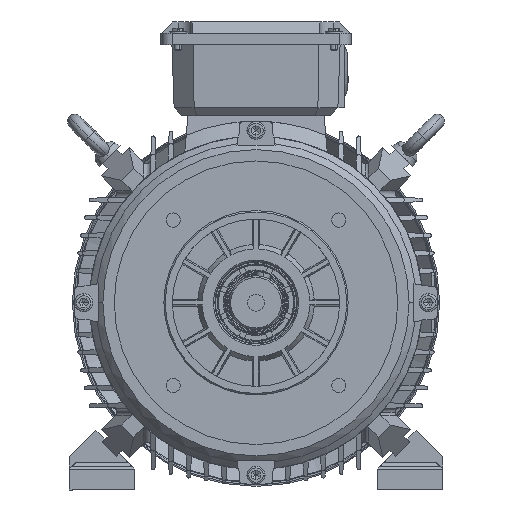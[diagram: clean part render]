
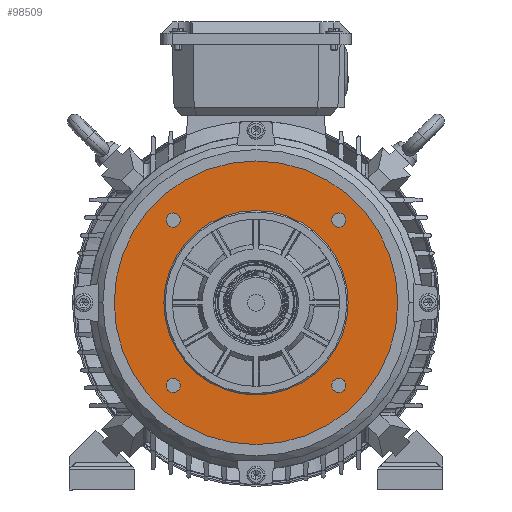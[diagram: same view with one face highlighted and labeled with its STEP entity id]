
A CAD part, left-side view. The second image highlights one B-rep face of the part: STEP entity #98509.
In plain terms, the highlighted planar face has unit normal (-1, 0, 0).
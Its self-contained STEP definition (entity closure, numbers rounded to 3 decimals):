
#95651 = EDGE_CURVE ( 'NONE', #95734, #95652, #122150, .T. ) ;
#95652 = VERTEX_POINT ( 'NONE', #122146 ) ;
#95666 = VERTEX_POINT ( 'NONE', #122119 ) ;
#95668 = EDGE_CURVE ( 'NONE', #95666, #95669, #122182, .T. ) ;
#95669 = VERTEX_POINT ( 'NONE', #122177 ) ;
#95682 = VERTEX_POINT ( 'NONE', #122211 ) ;
#95684 = EDGE_CURVE ( 'NONE', #95682, #95685, #122210, .T. ) ;
#95685 = VERTEX_POINT ( 'NONE', #122205 ) ;
#95717 = VERTEX_POINT ( 'NONE', #122276 ) ;
#95719 = EDGE_CURVE ( 'NONE', #95717, #95720, #122275, .T. ) ;
#95720 = VERTEX_POINT ( 'NONE', #122270 ) ;
#95734 = VERTEX_POINT ( 'NONE', #122298 ) ;
#96098 = VERTEX_POINT ( 'NONE', #123039 ) ;
#96100 = EDGE_CURVE ( 'NONE', #96101, #96098, #123038, .T. ) ;
#96101 = VERTEX_POINT ( 'NONE', #123033 ) ;
#96107 = EDGE_CURVE ( 'NONE', #96108, #96109, #123089, .T. ) ;
#96108 = VERTEX_POINT ( 'NONE', #123080 ) ;
#96109 = VERTEX_POINT ( 'NONE', #123079 ) ;
#98488 = EDGE_CURVE ( 'NONE', #95720, #95717, #128428, .T. ) ;
#98490 = ORIENTED_EDGE ( 'NONE', *, *, #95719, .F. ) ;
#98491 = EDGE_LOOP ( 'NONE', ( #98492, #98494 ) ) ;
#98492 = ORIENTED_EDGE ( 'NONE', *, *, #96107, .F. ) ;
#98494 = ORIENTED_EDGE ( 'NONE', *, *, #98500, .F. ) ;
#98500 = EDGE_CURVE ( 'NONE', #96109, #96108, #128414, .T. ) ;
#98509 = ADVANCED_FACE ( 'NONE', ( #128459, #128458, #128457, #128456, #128455, #128454 ), #128453, .F. ) ;
#98510 = EDGE_LOOP ( 'NONE', ( #98512, #98517 ) ) ;
#98512 = ORIENTED_EDGE ( 'NONE', *, *, #98514, .F. ) ;
#98514 = EDGE_CURVE ( 'NONE', #95685, #95682, #128447, .T. ) ;
#98517 = ORIENTED_EDGE ( 'NONE', *, *, #95684, .F. ) ;
#98518 = EDGE_LOOP ( 'NONE', ( #98551, #98555 ) ) ;
#98529 = ORIENTED_EDGE ( 'NONE', *, *, #98531, .T. ) ;
#98531 = EDGE_CURVE ( 'NONE', #96098, #96101, #128536, .T. ) ;
#98551 = ORIENTED_EDGE ( 'NONE', *, *, #98553, .F. ) ;
#98553 = EDGE_CURVE ( 'NONE', #95669, #95666, #128558, .T. ) ;
#98555 = ORIENTED_EDGE ( 'NONE', *, *, #95668, .F. ) ;
#98557 = EDGE_LOOP ( 'NONE', ( #98559, #98563 ) ) ;
#98559 = ORIENTED_EDGE ( 'NONE', *, *, #98560, .F. ) ;
#98560 = EDGE_CURVE ( 'NONE', #95652, #95734, #128554, .T. ) ;
#98563 = ORIENTED_EDGE ( 'NONE', *, *, #95651, .F. ) ;
#98564 = EDGE_LOOP ( 'NONE', ( #98566, #98490 ) ) ;
#98566 = ORIENTED_EDGE ( 'NONE', *, *, #98488, .F. ) ;
#98603 = EDGE_LOOP ( 'NONE', ( #98606, #98529 ) ) ;
#98606 = ORIENTED_EDGE ( 'NONE', *, *, #96100, .T. ) ;
#122093 = CARTESIAN_POINT ( 'NONE',  ( 4., 58.336, 58.336 ) ) ;
#122119 = CARTESIAN_POINT ( 'NONE',  ( 4., -58.336, 53.336 ) ) ;
#122146 = CARTESIAN_POINT ( 'NONE',  ( 4., 58.336, 63.336 ) ) ;
#122147 = DIRECTION ( 'NONE',  ( 0., 0., 1. ) ) ;
#122148 = DIRECTION ( 'NONE',  ( -1., 0., 0. ) ) ;
#122149 = AXIS2_PLACEMENT_3D ( 'NONE', #122093, #122148, #122147 ) ;
#122150 = CIRCLE ( 'NONE', #122149, 5. ) ;
#122177 = CARTESIAN_POINT ( 'NONE',  ( 4., -58.336, 63.336 ) ) ;
#122178 = DIRECTION ( 'NONE',  ( 0., 0., 1. ) ) ;
#122179 = DIRECTION ( 'NONE',  ( -1., 0., 0. ) ) ;
#122180 = CARTESIAN_POINT ( 'NONE',  ( 4., -58.336, 58.336 ) ) ;
#122181 = AXIS2_PLACEMENT_3D ( 'NONE', #122180, #122179, #122178 ) ;
#122182 = CIRCLE ( 'NONE', #122181, 5. ) ;
#122205 = CARTESIAN_POINT ( 'NONE',  ( 4., -58.336, -53.336 ) ) ;
#122206 = DIRECTION ( 'NONE',  ( 0., 0., 1. ) ) ;
#122207 = DIRECTION ( 'NONE',  ( -1., 0., 0. ) ) ;
#122208 = CARTESIAN_POINT ( 'NONE',  ( 4., -58.336, -58.336 ) ) ;
#122209 = AXIS2_PLACEMENT_3D ( 'NONE', #122208, #122207, #122206 ) ;
#122210 = CIRCLE ( 'NONE', #122209, 5. ) ;
#122211 = CARTESIAN_POINT ( 'NONE',  ( 4., -58.336, -63.336 ) ) ;
#122270 = CARTESIAN_POINT ( 'NONE',  ( 4., 58.336, -53.336 ) ) ;
#122271 = DIRECTION ( 'NONE',  ( 0., 0., 1. ) ) ;
#122272 = DIRECTION ( 'NONE',  ( -1., 0., 0. ) ) ;
#122273 = CARTESIAN_POINT ( 'NONE',  ( 4., 58.336, -58.336 ) ) ;
#122274 = AXIS2_PLACEMENT_3D ( 'NONE', #122273, #122272, #122271 ) ;
#122275 = CIRCLE ( 'NONE', #122274, 5. ) ;
#122276 = CARTESIAN_POINT ( 'NONE',  ( 4., 58.336, -63.336 ) ) ;
#122298 = CARTESIAN_POINT ( 'NONE',  ( 4., 58.336, 53.336 ) ) ;
#123033 = CARTESIAN_POINT ( 'NONE',  ( 4., 0., 100. ) ) ;
#123034 = DIRECTION ( 'NONE',  ( 0., 0., 1. ) ) ;
#123035 = DIRECTION ( 'NONE',  ( -1., 0., 0. ) ) ;
#123036 = CARTESIAN_POINT ( 'NONE',  ( 4., 0., 0. ) ) ;
#123037 = AXIS2_PLACEMENT_3D ( 'NONE', #123036, #123035, #123034 ) ;
#123038 = CIRCLE ( 'NONE', #123037, 100. ) ;
#123039 = CARTESIAN_POINT ( 'NONE',  ( 4., 0., -100. ) ) ;
#123079 = CARTESIAN_POINT ( 'NONE',  ( 4., 0., -65. ) ) ;
#123080 = CARTESIAN_POINT ( 'NONE',  ( 4., 0., 65. ) ) ;
#123081 = DIRECTION ( 'NONE',  ( 0., 0., 1. ) ) ;
#123082 = DIRECTION ( 'NONE',  ( -1., 0., 0. ) ) ;
#123083 = CARTESIAN_POINT ( 'NONE',  ( 4., 0., 0. ) ) ;
#123084 = AXIS2_PLACEMENT_3D ( 'NONE', #123083, #123082, #123081 ) ;
#123089 = CIRCLE ( 'NONE', #123084, 65. ) ;
#128414 = CIRCLE ( 'NONE', #128478, 65. ) ;
#128420 = DIRECTION ( 'NONE',  ( 0., 0., 1. ) ) ;
#128421 = DIRECTION ( 'NONE',  ( -1., 0., 0. ) ) ;
#128422 = CARTESIAN_POINT ( 'NONE',  ( 4., 58.336, -58.336 ) ) ;
#128423 = AXIS2_PLACEMENT_3D ( 'NONE', #128422, #128421, #128420 ) ;
#128428 = CIRCLE ( 'NONE', #128423, 5. ) ;
#128444 = DIRECTION ( 'NONE',  ( 0., 0., 1. ) ) ;
#128445 = DIRECTION ( 'NONE',  ( -1., 0., 0. ) ) ;
#128446 = AXIS2_PLACEMENT_3D ( 'NONE', #128451, #128445, #128444 ) ;
#128447 = CIRCLE ( 'NONE', #128446, 5. ) ;
#128448 = DIRECTION ( 'NONE',  ( 0., 0., -1. ) ) ;
#128449 = DIRECTION ( 'NONE',  ( 1., 0., 0. ) ) ;
#128450 = AXIS2_PLACEMENT_3D ( 'NONE', #128452, #128449, #128448 ) ;
#128451 = CARTESIAN_POINT ( 'NONE',  ( 4., -58.336, -58.336 ) ) ;
#128452 = CARTESIAN_POINT ( 'NONE',  ( 4., 100., 0. ) ) ;
#128453 = PLANE ( 'NONE',  #128450 ) ;
#128454 = FACE_OUTER_BOUND ( 'NONE', #98603, .T. ) ;
#128455 = FACE_BOUND ( 'NONE', #98491, .T. ) ;
#128456 = FACE_BOUND ( 'NONE', #98564, .T. ) ;
#128457 = FACE_BOUND ( 'NONE', #98557, .T. ) ;
#128458 = FACE_BOUND ( 'NONE', #98518, .T. ) ;
#128459 = FACE_BOUND ( 'NONE', #98510, .T. ) ;
#128475 = DIRECTION ( 'NONE',  ( 0., 0., 1. ) ) ;
#128476 = DIRECTION ( 'NONE',  ( -1., 0., 0. ) ) ;
#128477 = CARTESIAN_POINT ( 'NONE',  ( 4., 0., 0. ) ) ;
#128478 = AXIS2_PLACEMENT_3D ( 'NONE', #128477, #128476, #128475 ) ;
#128532 = DIRECTION ( 'NONE',  ( 0., 0., 1. ) ) ;
#128533 = DIRECTION ( 'NONE',  ( -1., 0., 0. ) ) ;
#128534 = CARTESIAN_POINT ( 'NONE',  ( 4., 0., 0. ) ) ;
#128535 = AXIS2_PLACEMENT_3D ( 'NONE', #128534, #128533, #128532 ) ;
#128536 = CIRCLE ( 'NONE', #128535, 100. ) ;
#128550 = DIRECTION ( 'NONE',  ( 0., 0., 1. ) ) ;
#128551 = DIRECTION ( 'NONE',  ( -1., 0., 0. ) ) ;
#128552 = CARTESIAN_POINT ( 'NONE',  ( 4., 58.336, 58.336 ) ) ;
#128553 = AXIS2_PLACEMENT_3D ( 'NONE', #128552, #128551, #128550 ) ;
#128554 = CIRCLE ( 'NONE', #128553, 5. ) ;
#128555 = DIRECTION ( 'NONE',  ( 0., 0., 1. ) ) ;
#128556 = DIRECTION ( 'NONE',  ( -1., 0., 0. ) ) ;
#128557 = AXIS2_PLACEMENT_3D ( 'NONE', #128564, #128556, #128555 ) ;
#128558 = CIRCLE ( 'NONE', #128557, 5. ) ;
#128564 = CARTESIAN_POINT ( 'NONE',  ( 4., -58.336, 58.336 ) ) ;
